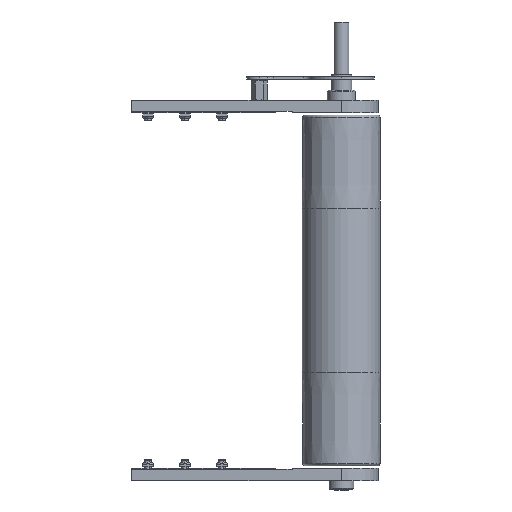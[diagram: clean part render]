
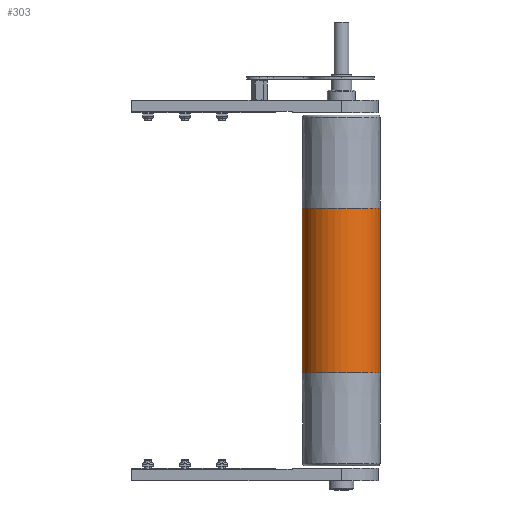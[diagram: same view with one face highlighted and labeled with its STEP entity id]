
A CAD part, front view. The second image highlights one B-rep face of the part: STEP entity #303.
In plain terms, the highlighted cylindrical face has radius 47.5 mm (diameter 95 mm), a partial arc.
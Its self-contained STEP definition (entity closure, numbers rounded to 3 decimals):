
#303 = ADVANCED_FACE ( 'NONE', ( #3827 ), #3823, .T. ) ;
#1088 = CIRCLE ( 'NONE', #16065, 47.5 ) ;
#1090 = CIRCLE ( 'NONE', #16063, 47.5 ) ;
#1099 = VECTOR ( 'NONE', #9837, 1000. ) ;
#1104 = LINE ( 'NONE', #9835, #1099 ) ;
#1106 = VECTOR ( 'NONE', #9836, 1000. ) ;
#1118 = LINE ( 'NONE', #9842, #1106 ) ;
#1724 = EDGE_CURVE ( 'NONE', #10202, #10212, #1118, .T. ) ;
#1726 = EDGE_CURVE ( 'NONE', #10215, #18257, #1104, .T. ) ;
#1731 = EDGE_CURVE ( 'NONE', #18257, #10212, #1090, .T. ) ;
#1732 = EDGE_CURVE ( 'NONE', #10215, #10202, #1088, .T. ) ;
#3823 = CYLINDRICAL_SURFACE ( 'NONE', #9610, 47.5 ) ;
#3827 = FACE_OUTER_BOUND ( 'NONE', #4856, .T. ) ;
#4856 = EDGE_LOOP ( 'NONE', ( #6023, #5699, #5919, #5695 ) ) ;
#5695 = ORIENTED_EDGE ( 'NONE', *, *, #1731, .T. ) ;
#5699 = ORIENTED_EDGE ( 'NONE', *, *, #1732, .F. ) ;
#5919 = ORIENTED_EDGE ( 'NONE', *, *, #1726, .T. ) ;
#6023 = ORIENTED_EDGE ( 'NONE', *, *, #1724, .F. ) ;
#8470 = CARTESIAN_POINT ( 'NONE',  ( 0., 0., 210. ) ) ;
#8476 = DIRECTION ( 'NONE',  ( 0., 0., -1. ) ) ;
#8481 = DIRECTION ( 'NONE',  ( -1., 0., 0. ) ) ;
#9610 = AXIS2_PLACEMENT_3D ( 'NONE', #8470, #8476, #8481 ) ;
#9802 = DIRECTION ( 'NONE',  ( 1., 0., 0. ) ) ;
#9804 = DIRECTION ( 'NONE',  ( 0., 0., 1. ) ) ;
#9805 = CARTESIAN_POINT ( 'NONE',  ( 0., 0., 100. ) ) ;
#9809 = DIRECTION ( 'NONE',  ( 1., 0., 0. ) ) ;
#9810 = DIRECTION ( 'NONE',  ( 0., 0., 1. ) ) ;
#9811 = CARTESIAN_POINT ( 'NONE',  ( 0., 0., -100. ) ) ;
#9835 = CARTESIAN_POINT ( 'NONE',  ( -47.5, 0., 210. ) ) ;
#9836 = DIRECTION ( 'NONE',  ( 0., 0., -1. ) ) ;
#9837 = DIRECTION ( 'NONE',  ( 0., 0., -1. ) ) ;
#9842 = CARTESIAN_POINT ( 'NONE',  ( 47.5, 0., 210. ) ) ;
#10202 = VERTEX_POINT ( 'NONE', #10879 ) ;
#10212 = VERTEX_POINT ( 'NONE', #10869 ) ;
#10215 = VERTEX_POINT ( 'NONE', #10866 ) ;
#10866 = CARTESIAN_POINT ( 'NONE',  ( -47.5, 0., 100. ) ) ;
#10869 = CARTESIAN_POINT ( 'NONE',  ( 47.5, 0., -100. ) ) ;
#10879 = CARTESIAN_POINT ( 'NONE',  ( 47.5, 0., 100. ) ) ;
#11787 = CARTESIAN_POINT ( 'NONE',  ( -47.5, 0., -100. ) ) ;
#16063 = AXIS2_PLACEMENT_3D ( 'NONE', #9811, #9810, #9809 ) ;
#16065 = AXIS2_PLACEMENT_3D ( 'NONE', #9805, #9804, #9802 ) ;
#18257 = VERTEX_POINT ( 'NONE', #11787 ) ;
